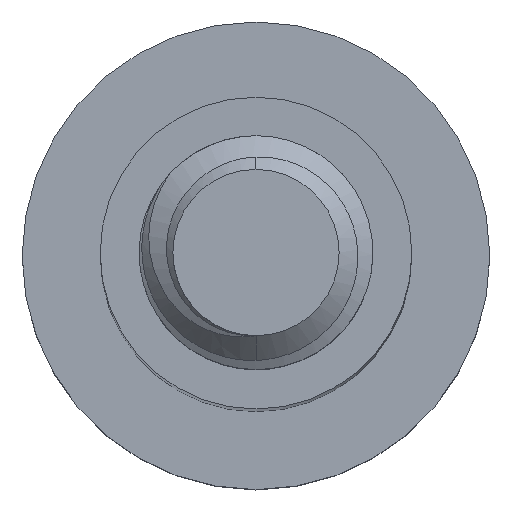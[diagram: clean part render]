
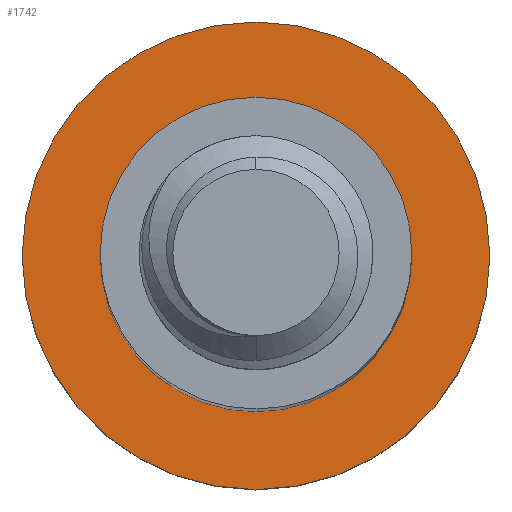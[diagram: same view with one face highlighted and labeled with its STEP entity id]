
A CAD part, top view. The second image highlights one B-rep face of the part: STEP entity #1742.
In plain terms, the highlighted planar face has unit normal (0, 0, 1).
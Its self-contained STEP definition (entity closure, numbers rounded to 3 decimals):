
#83 = ORIENTED_EDGE ( 'NONE', *, *, #1563, .T. ) ;
#105 = AXIS2_PLACEMENT_3D ( 'NONE', #949, #229, #1827 ) ;
#186 = DIRECTION ( 'NONE',  ( 0., 0., -1. ) ) ;
#229 = DIRECTION ( 'NONE',  ( 0., 0., -1. ) ) ;
#266 = CARTESIAN_POINT ( 'NONE',  ( -2., 0., -20. ) ) ;
#290 = DIRECTION ( 'NONE',  ( 0., 0., -1. ) ) ;
#340 = DIRECTION ( 'NONE',  ( 0., 0., -1. ) ) ;
#342 = FACE_OUTER_BOUND ( 'NONE', #580, .T. ) ;
#359 = CARTESIAN_POINT ( 'NONE',  ( 2., 0., -20. ) ) ;
#454 = VERTEX_POINT ( 'NONE', #266 ) ;
#461 = CIRCLE ( 'NONE', #1719, 2. ) ;
#491 = CARTESIAN_POINT ( 'NONE',  ( 0., 0., -20. ) ) ;
#497 = CARTESIAN_POINT ( 'NONE',  ( 0., 0., -20. ) ) ;
#552 = ORIENTED_EDGE ( 'NONE', *, *, #1294, .T. ) ;
#580 = EDGE_LOOP ( 'NONE', ( #1833, #1479 ) ) ;
#605 = CIRCLE ( 'NONE', #2087, 3. ) ;
#613 = EDGE_CURVE ( 'NONE', #1443, #1796, #605, .T. ) ;
#794 = AXIS2_PLACEMENT_3D ( 'NONE', #491, #854, #1703 ) ;
#854 = DIRECTION ( 'NONE',  ( 0., 0., -1. ) ) ;
#898 = CIRCLE ( 'NONE', #105, 3. ) ;
#949 = CARTESIAN_POINT ( 'NONE',  ( 0., 0., -20. ) ) ;
#1129 = CARTESIAN_POINT ( 'NONE',  ( 0., 0., -20. ) ) ;
#1207 = CARTESIAN_POINT ( 'NONE',  ( -3., 0., -20. ) ) ;
#1294 = EDGE_CURVE ( 'NONE', #1587, #454, #2020, .T. ) ;
#1377 = DIRECTION ( 'NONE',  ( -1., 0., 0. ) ) ;
#1396 = CARTESIAN_POINT ( 'NONE',  ( 0., 0., -20. ) ) ;
#1443 = VERTEX_POINT ( 'NONE', #1862 ) ;
#1479 = ORIENTED_EDGE ( 'NONE', *, *, #2190, .F. ) ;
#1563 = EDGE_CURVE ( 'NONE', #454, #1587, #461, .T. ) ;
#1587 = VERTEX_POINT ( 'NONE', #359 ) ;
#1614 = DIRECTION ( 'NONE',  ( -1., 0., 0. ) ) ;
#1660 = DIRECTION ( 'NONE',  ( -1., 0., 0. ) ) ;
#1700 = EDGE_LOOP ( 'NONE', ( #83, #552 ) ) ;
#1703 = DIRECTION ( 'NONE',  ( -1., 0., 0. ) ) ;
#1715 = PLANE ( 'NONE',  #794 ) ;
#1719 = AXIS2_PLACEMENT_3D ( 'NONE', #1396, #186, #1614 ) ;
#1742 = ADVANCED_FACE ( 'NONE', ( #1889, #342 ), #1715, .F. ) ;
#1796 = VERTEX_POINT ( 'NONE', #1207 ) ;
#1809 = AXIS2_PLACEMENT_3D ( 'NONE', #1129, #290, #1660 ) ;
#1827 = DIRECTION ( 'NONE',  ( -1., 0., 0. ) ) ;
#1833 = ORIENTED_EDGE ( 'NONE', *, *, #613, .F. ) ;
#1862 = CARTESIAN_POINT ( 'NONE',  ( 3., 0., -20. ) ) ;
#1889 = FACE_BOUND ( 'NONE', #1700, .T. ) ;
#2020 = CIRCLE ( 'NONE', #1809, 2. ) ;
#2087 = AXIS2_PLACEMENT_3D ( 'NONE', #497, #340, #1377 ) ;
#2190 = EDGE_CURVE ( 'NONE', #1796, #1443, #898, .T. ) ;
